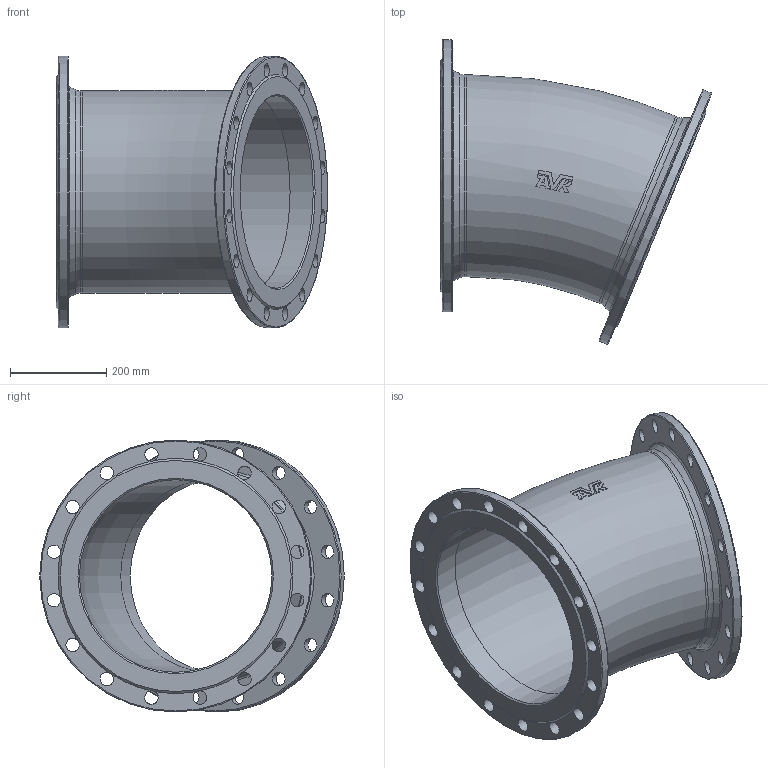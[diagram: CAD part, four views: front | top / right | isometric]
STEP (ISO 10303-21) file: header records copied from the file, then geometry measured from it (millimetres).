
FILE_DESCRIPTION (( 'STEP AP203' ), '1' );
FILE_NAME ('O_712_0210_DN400_0X_REV01.step', '2024-08-15T12:24:27', ( '' ), ( '' ), 'SwSTEP 2.0', 'SolidWorks 2022', '' );
FILE_SCHEMA (( 'CONFIG_CONTROL_DESIGN' ));
Length unit declared in the file: millimetre
Products named in the file (1): O_712_0210_DN400_0X_REV01
Bounding box: 563.6 x 632.81 x 565 mm (x, y, z)
Surface area: 2150759.2 mm2 (no closed solid volume)
Topology: 0 solids, 2 shells, 102 faces, 362 edges, 238 vertices
Faces by surface type: plane 41, cylinder 40, torus 15, cone 6
Full cylindrical faces by diameter (mm): 28 x32, 400 x2, 420 x2, 565 x2
Entity records: 3923 total; most frequent: CARTESIAN_POINT 1220, ORIENTED_EDGE 532, DIRECTION 491, EDGE_CURVE 267, AXIS2_PLACEMENT_3D 227, EDGE_LOOP 199, VERTEX_POINT 198, FACE_OUTER_BOUND 151
